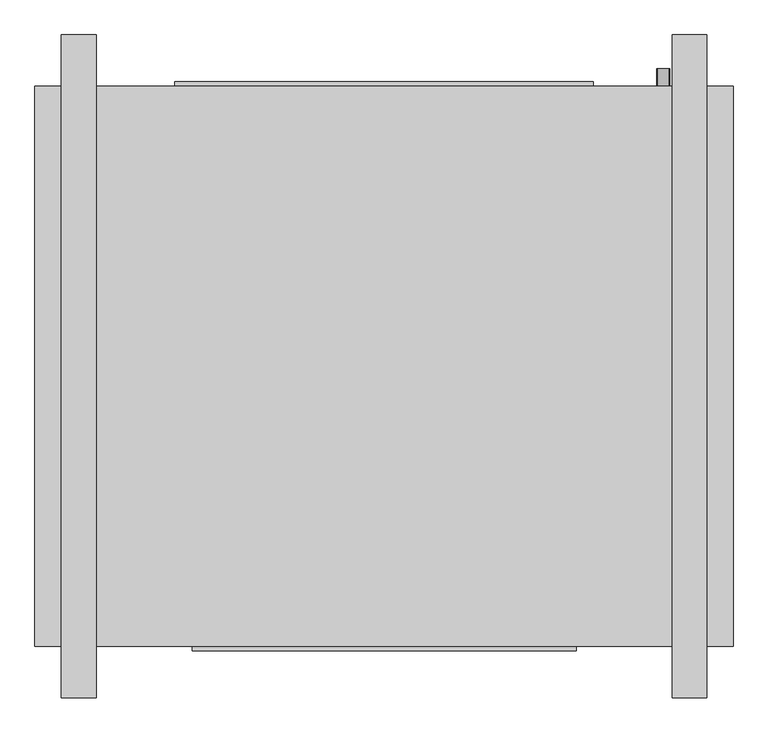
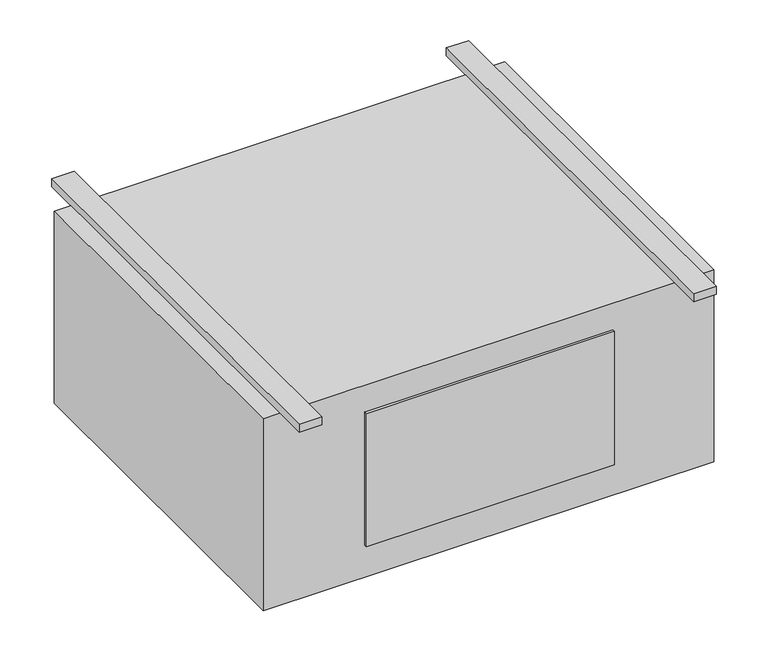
"""IFC4 building model written with IfcOpenShell, lengths in millimetres: proxy geometry, Exposed_High_Capacity_Horizontal_Cabinet_Fan_Coil_Unit_-_42DFA_-_CARRIER_-_4-Pipe_RH_2022 : Size 10 - 277v/60Hz/1Ph - 6/2 Coil."""

from ifc_helpers import new_model, si_unit, point, frame, frame_2d, origin, origin_with_axes, place, context, project, spatial, polyline, circle_curve, trimmed, segment, composite_curve, outline, extrude, source, transform, mapped, element, save


def mechanical_equipment_e893a141(model_context):
    return source(origin(), model_context, "Body", "SweptSolid", [
        extrude(outline(composite_curve([segment(trimmed(circle_curve(frame_2d((-406.4, 558.8)), 9.525), [point((-406.4, 549.275))], [point((-406.4, 568.325))], False, "CARTESIAN"), True, "CONTINUOUS"), segment(trimmed(circle_curve(frame_2d((-406.4, 558.8)), 9.525), [point((-406.4, 568.325))], [point((-406.4, 549.275))], False, "CARTESIAN"), True, "CONTINUOUS")], self_intersect=False)), frame((0.0, 169.8625, 0.0), z_axis=(0.0, 1.0, 0.0), x_axis=(0.0, 0.0, 1.0)), (0.0, 0.0, 1.0), 25.4),
        extrude(outline(composite_curve([segment(trimmed(circle_curve(frame_2d((-330.2, 558.8)), 7.9375), [point((-330.2, 550.8625))], [point((-330.2, 566.7375))], False, "CARTESIAN"), True, "CONTINUOUS"), segment(trimmed(circle_curve(frame_2d((-330.2, 558.8)), 7.9375), [point((-330.2, 566.7375))], [point((-330.2, 550.8625))], False, "CARTESIAN"), True, "CONTINUOUS")], self_intersect=False)), frame((0.0, 169.8625, 0.0), z_axis=(0.0, 1.0, 0.0), x_axis=(0.0, 0.0, 1.0)), (0.0, 0.0, 1.0), 25.4),
        extrude(outline(composite_curve([segment(trimmed(circle_curve(frame_2d((-254.0, 558.8)), 7.9375), [point((-254.0, 550.8625))], [point((-254.0, 566.7375))], False, "CARTESIAN"), True, "CONTINUOUS"), segment(trimmed(circle_curve(frame_2d((-254.0, 558.8)), 7.9375), [point((-254.0, 566.7375))], [point((-254.0, 550.8625))], False, "CARTESIAN"), True, "CONTINUOUS")], self_intersect=False)), frame((0.0, 169.8625, 0.0), z_axis=(0.0, 1.0, 0.0), x_axis=(0.0, 0.0, 1.0)), (0.0, 0.0, 1.0), 25.4),
        extrude(outline(composite_curve([segment(trimmed(circle_curve(frame_2d((-177.8, 558.8)), 7.9375), [point((-177.8, 550.8625))], [point((-177.8, 566.7375))], False, "CARTESIAN"), True, "CONTINUOUS"), segment(trimmed(circle_curve(frame_2d((-177.8, 558.8)), 7.9375), [point((-177.8, 566.7375))], [point((-177.8, 550.8625))], False, "CARTESIAN"), True, "CONTINUOUS")], self_intersect=False)), frame((0.0, 169.8625, 0.0), z_axis=(0.0, 1.0, 0.0), x_axis=(0.0, 0.0, 1.0)), (0.0, 0.0, 1.0), 25.4),
        extrude(outline(composite_curve([segment(trimmed(circle_curve(frame_2d((-101.6, 558.8)), 7.9375), [point((-101.6, 550.8625))], [point((-101.6, 566.7375))], False, "CARTESIAN"), True, "CONTINUOUS"), segment(trimmed(circle_curve(frame_2d((-101.6, 558.8)), 7.9375), [point((-101.6, 566.7375))], [point((-101.6, 550.8625))], False, "CARTESIAN"), True, "CONTINUOUS")], self_intersect=False)), frame((0.0, 169.8625, 0.0), z_axis=(0.0, 1.0, 0.0), x_axis=(0.0, 0.0, 1.0)), (0.0, 0.0, 1.0), 25.4),
        extrude(outline(polyline([(660.4, 169.8625), (660.4, -646.1125), (-355.6, -646.1125), (-355.6, 169.8625), (660.4, 169.8625)])), frame((0.0, 0.0, -457.2), z_axis=(0.0, 0.0, 1.0), x_axis=(1.0, 0.0, 0.0)), (0.0, 0.0, 1.0), 457.2),
        extrude(outline(polyline([(-152.4, 176.2125), (457.2, 176.2125), (457.2, 169.8625), (-152.4, 169.8625), (-152.4, 176.2125)])), frame((0.0, 0.0, -381.0), z_axis=(0.0, 0.0, 1.0), x_axis=(1.0, 0.0, 0.0)), (0.0, 0.0, 1.0), 355.6),
        extrude(outline(polyline([(-266.7, 244.475), (-266.7, -720.725), (-317.5, -720.725), (-317.5, 244.475), (-266.7, 244.475)])), origin_with_axes(), (0.0, 0.0, 1.0), 19.05),
        extrude(outline(polyline([(622.3, 244.475), (622.3, -720.725), (571.5, -720.725), (571.5, 244.475), (622.3, 244.475)])), origin_with_axes(), (0.0, 0.0, 1.0), 19.05),
        extrude(outline(polyline([(431.8, -652.4625), (-127.0, -652.4625), (-127.0, -646.1125), (431.8, -646.1125), (431.8, -652.4625)])), frame((0.0, 0.0, -381.0), z_axis=(0.0, 0.0, 1.0), x_axis=(1.0, 0.0, 0.0)), (0.0, 0.0, 1.0), 317.5),
    ])


if __name__ == "__main__":
    model = new_model("IFC4")
    model_context = context("Model", 3, world=origin())
    ifc_project = project(units=[si_unit("LENGTHUNIT", "METRE", prefix="MILLI")], contexts=[model_context])
    site = spatial("IfcSite", under=ifc_project)
    building = spatial("IfcBuilding", under=site)
    placement = place(None, origin())
    mechanical_equipment_shape = mechanical_equipment_e893a141(model_context)
    element("IfcBuildingElementProxy", 1, Name="Exposed_High_Capacity_Horizontal_Cabinet_Fan_Coil_Unit_-_42DFA_-_CARRIER_-_4-Pipe_RH_2022 : Size 10 - 277v/60Hz/1Ph - 6/2 Coil", ObjectType="Exposed_High_Capacity_Horizontal_Cabinet_Fan_Coil_Unit_-_42DFA_-_CARRIER_-_4-Pipe_RH_2022 : Size 10 - 277v/60Hz/1Ph - 6/2 Coil", at=placement, inside=building, context=model_context, shape_type="MappedRepresentation", body=[
        mapped(mechanical_equipment_shape, transform((0.0, 0.0, 0.0), x_axis=(1.0, 0.0, 0.0), y_axis=(0.0, 1.0, 0.0), z_axis=(0.0, 0.0, 1.0))),
    ])
    save(model, "model.ifc")
